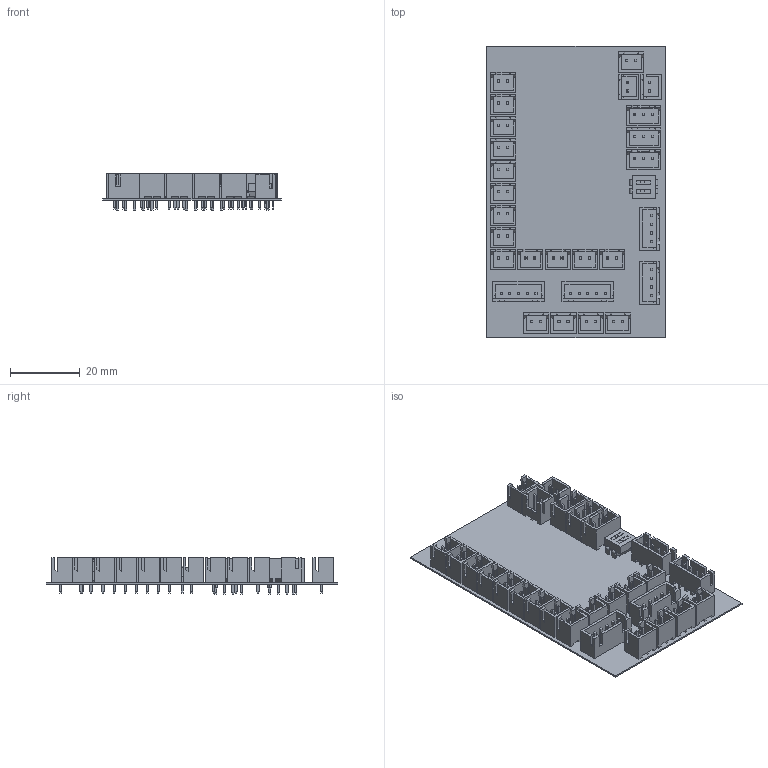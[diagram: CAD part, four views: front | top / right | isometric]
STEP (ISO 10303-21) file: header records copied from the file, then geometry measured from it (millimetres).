
FILE_DESCRIPTION(('Open CASCADE Model'),'2;1');
FILE_NAME('Open CASCADE Shape Model','2023-02-14T17:30:35',('Author'),( 'Open CASCADE'),'Open CASCADE STEP processor 6.8','Open CASCADE 6.8' ,'Unknown');
FILE_SCHEMA(('AUTOMOTIVE_DESIGN { 1 0 10303 214 1 1 1 1 }'));
Length unit declared in the file: millimetre
Products named in the file (36): PCB; Board; Open CASCADE STEP translator 6.8 1.1.1; VSYS; JST-XH_-_2Pin_v1; J2*; B5B-XH-A; Y; User_Library-jst-b4b-xh-a-1; X; 5V; 3V3; PID; cts_dip_v5; A2; JST-XH_-_3Pin_v1; A1; A0; J1-U; B10; J1-D; B9; J1-L; B8; J1-R; B7; B11; B6; B5; B4; B3; B12; B2; B1; B0; J1
Assembly tree (58 placements, depth 3):
  PCB
    Board
      Open CASCADE STEP translator 6.8 1.1.1
    VSYS
      JST-XH_-_2Pin_v1
    J2*
      B5B-XH-A
    Y
      User_Library-jst-b4b-xh-a-1
    X
      User_Library-jst-b4b-xh-a-1
    5V
      JST-XH_-_2Pin_v1
    3V3
      JST-XH_-_2Pin_v1
    PID
      cts_dip_v5
    A2
      JST-XH_-_3Pin_v1
    A1
      JST-XH_-_3Pin_v1
    A0
      JST-XH_-_3Pin_v1
    J1-U
      JST-XH_-_2Pin_v1
    B10
      JST-XH_-_2Pin_v1
    J1-D
      JST-XH_-_2Pin_v1
    B9
      JST-XH_-_2Pin_v1
    J1-L
      JST-XH_-_2Pin_v1
    B8
      JST-XH_-_2Pin_v1
    J1-R
      JST-XH_-_2Pin_v1
    B7
      JST-XH_-_2Pin_v1
    B11
      JST-XH_-_2Pin_v1
    B6
      JST-XH_-_2Pin_v1
    B5
      JST-XH_-_2Pin_v1
    B4
      JST-XH_-_2Pin_v1
    B3
      JST-XH_-_2Pin_v1
    B12
      JST-XH_-_2Pin_v1
    B2
      JST-XH_-_2Pin_v1
    B1
      JST-XH_-_2Pin_v1
    B0
      JST-XH_-_2Pin_v1
    J1
      B5B-XH-A
Bounding box: 51.31 x 83.69 x 10.61 mm (x, y, z)
Volume: 5954.7 mm3; surface area: 21917.9 mm2
Topology: 35 solids, 495 shells, 6259 faces, 14874 edges, 9696 vertices
Faces by surface type: plane 5344, bspline 897, cylinder 18
Entity records: 27604 total; most frequent: CARTESIAN_POINT 5814, ORIENTED_EDGE 3970, DIRECTION 3469, EDGE_CURVE 1985, LINE 1803, VECTOR 1803, VERTEX_POINT 1290, FACE_BOUND 877
